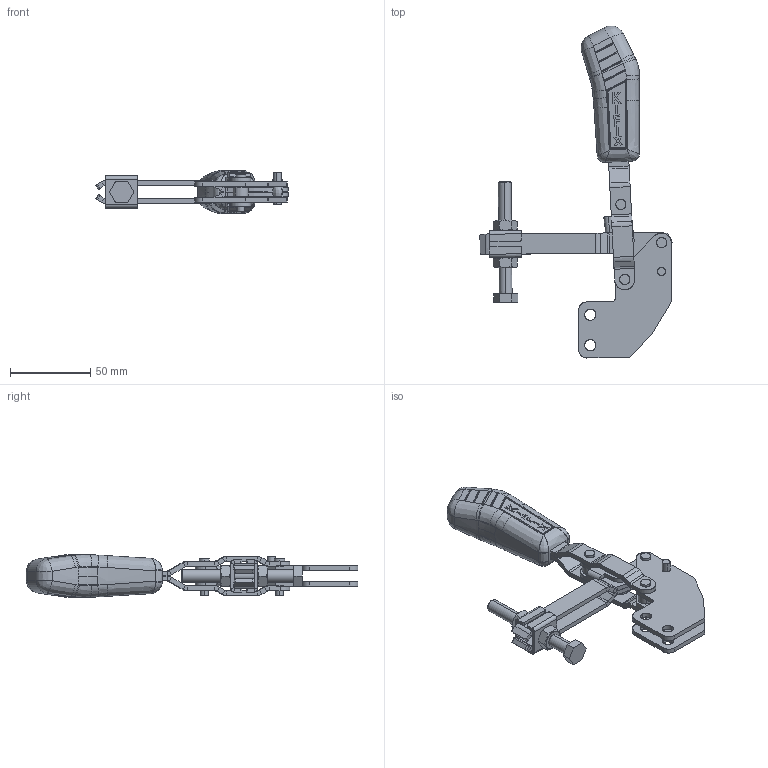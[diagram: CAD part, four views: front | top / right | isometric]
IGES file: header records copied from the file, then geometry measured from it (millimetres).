
Start section: SolidWorks IGES file using analytic representation for surfaces
Global section: file name: C:\Projetos\Grampos\KF-211\KF-211 RB\KF-211 RB.IGS; native system: SolidWorks 2013; preprocessor: SolidWorks 2013; author: Ricardo; date: 140731.104724; units: millimetre
Bounding box: 119.94 x 207.31 x 27.02 mm (x, y, z)
Surface area: 51905.7 mm2 (no closed solid volume)
Topology: 0 solids, 0 shells, 790 faces, 8319 edges, 8306 vertices
Faces by surface type: bspline 503, revolution 287
